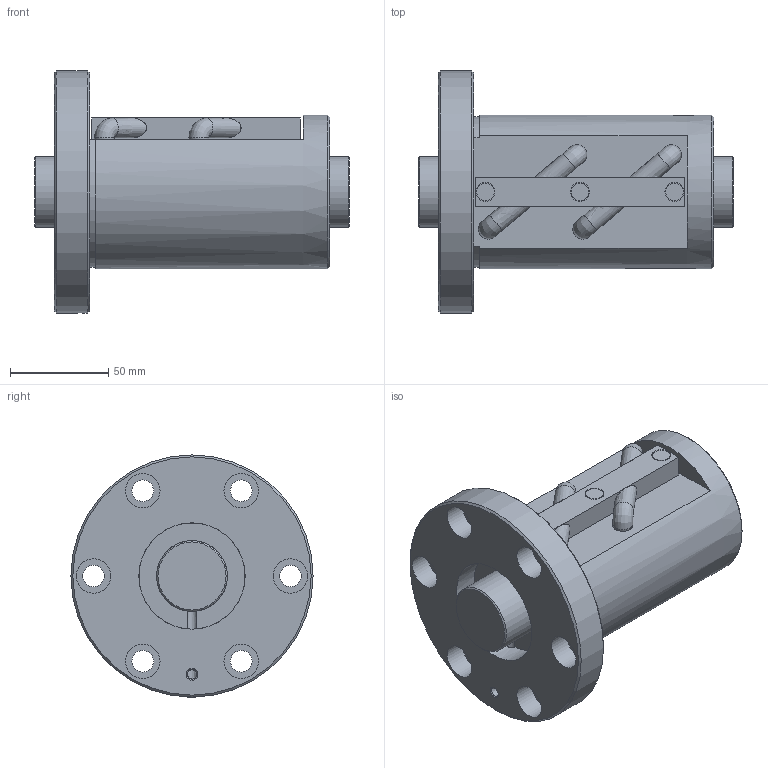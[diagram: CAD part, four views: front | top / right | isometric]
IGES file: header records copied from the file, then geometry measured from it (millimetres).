
Start section: Data from Parasolid IGES Translator 26.0.171, Copyright(c) 2006 Siemens PLM Software. All Rights Reserved.
Global section: file name: BIF3612V-7RRG0+160LC0_000.igs; native system: By Siemens PLM Incorporated; preprocessor: XPlus GENERIC/IGES 26.0.171; author: Noname; organization: Noname; date: 20240715.082355; units: millimetre
Bounding box: 160 x 123 x 123 mm (x, y, z)
Surface area: 105978.1 mm2 (no closed solid volume)
Topology: 0 solids, 0 shells, 97 faces, 462 edges, 416 vertices
Faces by surface type: revolution 56, extrusion 41
